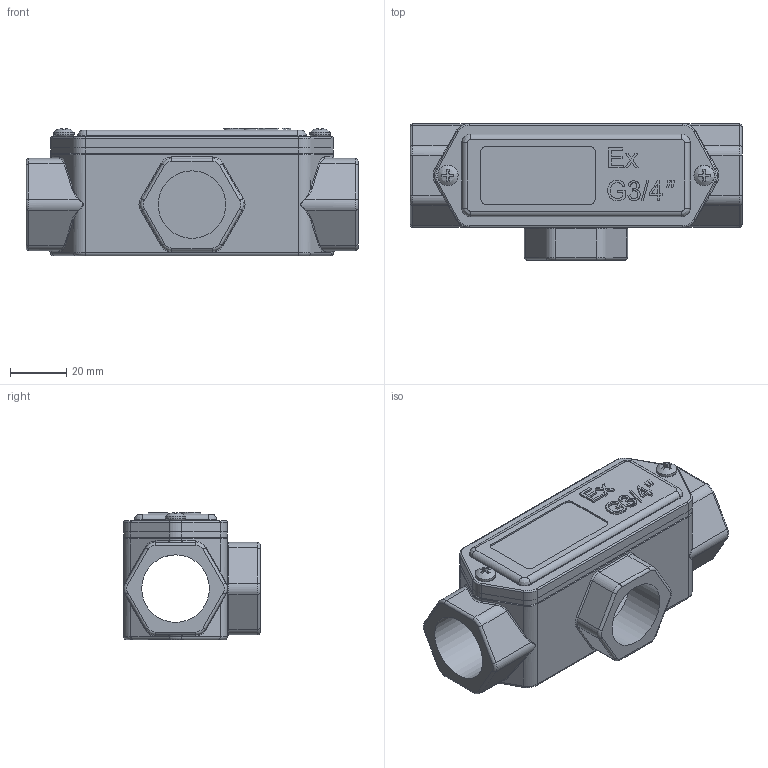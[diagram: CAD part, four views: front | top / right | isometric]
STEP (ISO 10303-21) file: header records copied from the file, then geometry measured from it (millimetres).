
FILE_DESCRIPTION((''),'2;1');
FILE_NAME('D:\WORKS\Чертежи\ТЗ\09.24\111154\СКВЕ-Т2_3d.stp','2024-09-12T09:13:26',('t.v.ogurnaya'),(''),'Autodesk Inventor 2012','Autodesk Inventor 2012','');
FILE_SCHEMA(('AUTOMOTIVE_DESIGN { 1 0 10303 214 1 1 1 1 }'));
Length unit declared in the file: millimetre
Products named in the file (1): СКВЕ-Т2_Внешний контур_2
Bounding box: 118.5 x 48.75 x 45.5 mm (x, y, z)
Surface area: 45337.9 mm2 (no closed solid volume)
Topology: 0 solids, 5 shells, 427 faces, 1067 edges, 665 vertices
Faces by surface type: plane 185, cylinder 137, torus 52, bspline 51, cone 2
Full cylindrical faces by diameter (mm): 3.242 x2, 3.9 x2, 4.5 x4, 7.3 x2, 24.117 x3
Entity records: 14055 total; most frequent: CARTESIAN_POINT 3596, ORIENTED_EDGE 2066, DIRECTION 2053, EDGE_CURVE 1033, AXIS2_PLACEMENT_3D 735, VERTEX_POINT 652, VECTOR 583, LINE 583
